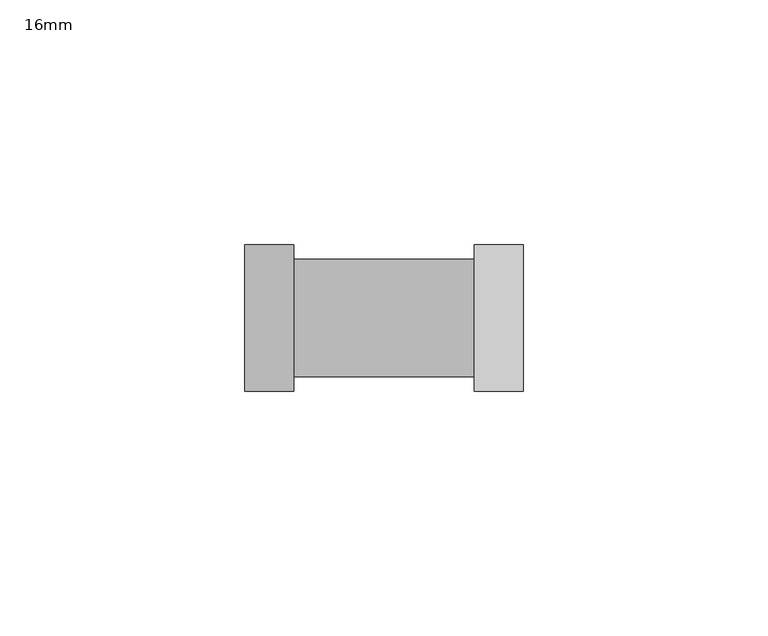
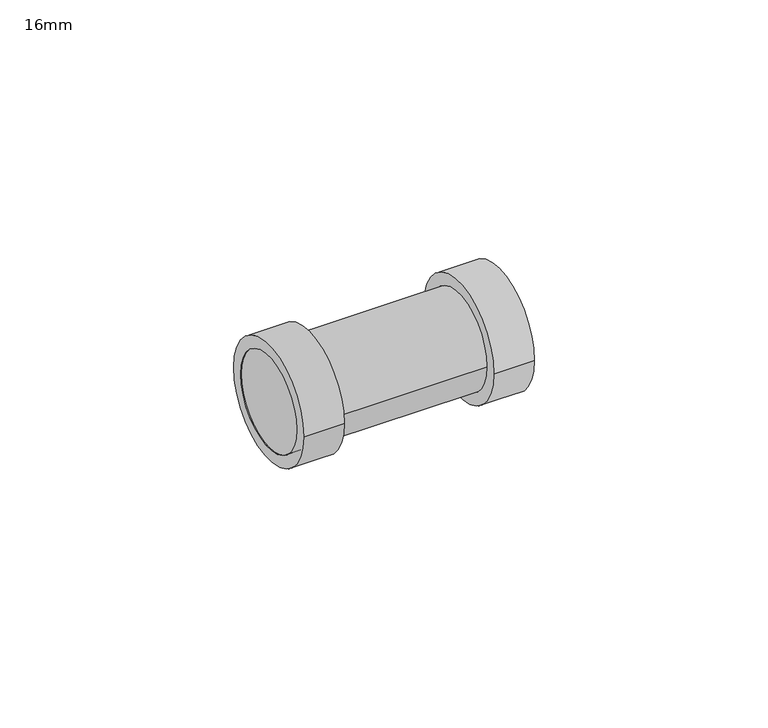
"""IFC4 building model written with IfcOpenShell, lengths in millimetres: pipe fitting geometry, PipeFitting_HTA_CPVC_StraightCouplingsThermocouples : 16mm."""

from ifc_helpers import new_model, si_unit, point, frame, origin, origin_2d, place, context, project, spatial, circle_curve, trimmed, segment, composite_curve, outline, extrude, source, transform, mapped, element, save


def pipe_fitting_16mm_104f3ea7(model_context):
    return source(origin(), model_context, "Body", "SweptSolid", [
        extrude(outline(composite_curve([segment(trimmed(circle_curve(origin_2d(), 15.0), [point((-15.0, 0.0))], [point((15.0, 0.0))], False, "CARTESIAN"), True, "CONTINUOUS"), segment(trimmed(circle_curve(origin_2d(), 15.0), [point((15.0, 0.0))], [point((-15.0, 0.0))], False, "CARTESIAN"), True, "CONTINUOUS")], self_intersect=False), holes=[composite_curve([segment(trimmed(circle_curve(origin_2d(), 12.0), [point((-12.0, 0.0))], [point((12.0, 0.0))], True, "CARTESIAN"), True, "CONTINUOUS"), segment(trimmed(circle_curve(origin_2d(), 12.0), [point((12.0, 0.0))], [point((-12.0, 0.0))], True, "CARTESIAN"), True, "CONTINUOUS")], self_intersect=False)]), frame((-28.5, 0.0, 0.0), z_axis=(1.0, 0.0, 0.0), x_axis=(0.0, 1.0, 0.0)), (0.0, 0.0, 1.0), 10.0),
        extrude(outline(composite_curve([segment(trimmed(circle_curve(origin_2d(), 15.0), [point((15.0, 0.0))], [point((-15.0, 0.0))], False, "CARTESIAN"), True, "CONTINUOUS"), segment(trimmed(circle_curve(origin_2d(), 15.0), [point((-15.0, 0.0))], [point((15.0, 0.0))], False, "CARTESIAN"), True, "CONTINUOUS")], self_intersect=False), holes=[composite_curve([segment(trimmed(circle_curve(origin_2d(), 12.0), [point((12.0, 0.0))], [point((-12.0, 0.0))], True, "CARTESIAN"), True, "CONTINUOUS"), segment(trimmed(circle_curve(origin_2d(), 12.0), [point((-12.0, 0.0))], [point((12.0, 0.0))], True, "CARTESIAN"), True, "CONTINUOUS")], self_intersect=False)]), frame((18.5, 0.0, 0.0), z_axis=(1.0, 0.0, 0.0), x_axis=(0.0, 1.0, 0.0)), (0.0, 0.0, 1.0), 10.0),
        extrude(outline(composite_curve([segment(trimmed(circle_curve(origin_2d(), 12.0), [point((-12.0, 0.0))], [point((12.0, 0.0))], False, "CARTESIAN"), True, "CONTINUOUS"), segment(trimmed(circle_curve(origin_2d(), 12.0), [point((12.0, 0.0))], [point((-12.0, 0.0))], False, "CARTESIAN"), True, "CONTINUOUS")], self_intersect=False)), frame((-28.5, 0.0, 0.0), z_axis=(1.0, 0.0, 0.0), x_axis=(0.0, 1.0, 0.0)), (0.0, 0.0, 1.0), 57.0),
    ])


if __name__ == "__main__":
    model = new_model("IFC4")
    model_context = context("Model", 3, world=origin())
    ifc_project = project(units=[si_unit("LENGTHUNIT", "METRE", prefix="MILLI")], contexts=[model_context])
    site = spatial("IfcSite", under=ifc_project)
    building = spatial("IfcBuilding", under=site)
    placement = place(None, origin())
    pipe_fitting_16mm_shape = pipe_fitting_16mm_104f3ea7(model_context)
    element("IfcPipeFitting", 1, ObjectType="PipeFitting_HTA_CPVC_StraightCouplingsThermocouples : 16mm", at=placement, inside=building, context=model_context, shape_type="MappedRepresentation", body=[
        mapped(pipe_fitting_16mm_shape, transform((0.0, 0.0, 0.0), x_axis=(1.0, 0.0, 0.0), y_axis=(0.0, 1.0, 0.0), z_axis=(0.0, 0.0, 1.0))),
    ])
    save(model, "model.ifc")
